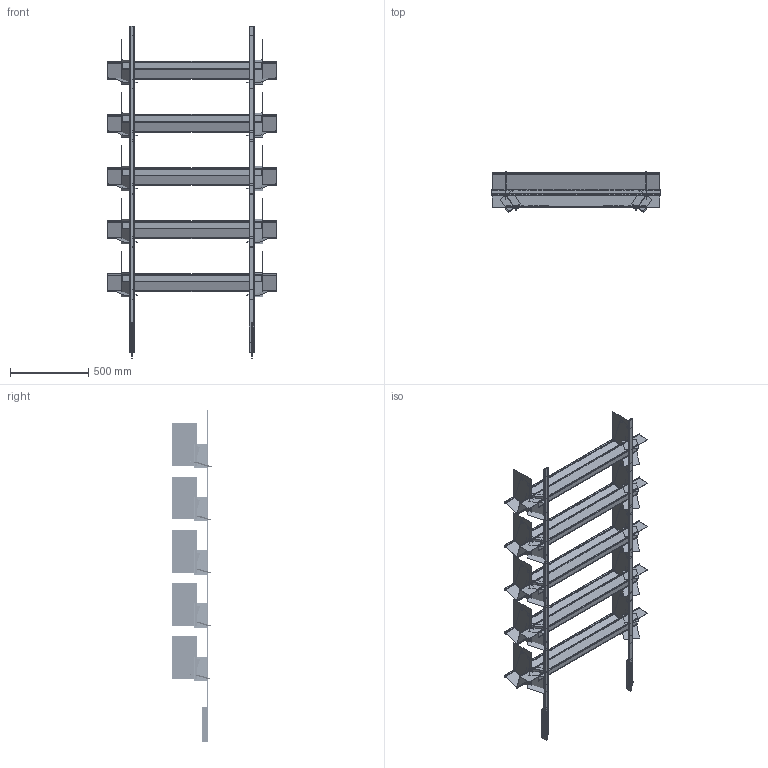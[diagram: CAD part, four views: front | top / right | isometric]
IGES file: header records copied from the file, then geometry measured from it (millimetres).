
Global section: file name: C:\Users\utente\Desktop\3d sito\SARMIENTO LIBRERIA\SARMIENTO LIBRERIA 80.igs; native system: Rhinoceros ( Mar  9 2011 ); preprocessor: Trout Lake IGES 012 Mar  9 2011; date: 170531.105622; units: millimetre
Bounding box: 1076.16 x 259.76 x 2125.12 mm (x, y, z)
Surface area: 7369633.3 mm2 (no closed solid volume)
Topology: 0 solids, 0 shells, 982 faces, 4098 edges, 4268 vertices
Faces by surface type: bspline 982
